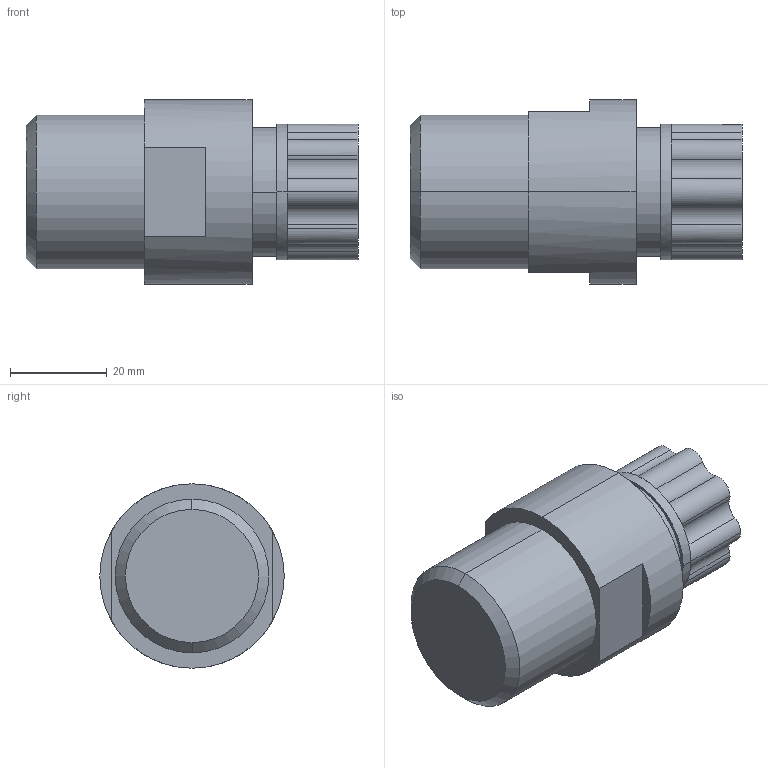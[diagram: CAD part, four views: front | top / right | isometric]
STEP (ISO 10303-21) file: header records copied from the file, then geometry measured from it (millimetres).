
FILE_DESCRIPTION (( 'STEP AP214' ), '1' );
FILE_NAME ('Fitting Synchro-Flare 08.STEP', '2012-09-26T19:23:43', ( '' ), ( '' ), 'SwSTEP 2.0', 'SolidWorks 2012', '' );
FILE_SCHEMA (( 'AUTOMOTIVE_DESIGN' ));
Length unit declared in the file: inch
Products named in the file (1): Fitting Synchro-Flare 08
Bounding box: 68.61 x 38.1 x 38.1 mm (x, y, z)
Volume: 54646.2 mm3; surface area: 9586.8 mm2
Topology: 1 solids, 1 shells, 51 faces, 122 edges, 77 vertices
Faces by surface type: cylinder 31, plane 18, cone 2
Entity records: 1592 total; most frequent: DIRECTION 307, CARTESIAN_POINT 251, ORIENTED_EDGE 244, AXIS2_PLACEMENT_3D 133, EDGE_CURVE 122, CIRCLE 81, VERTEX_POINT 77, EDGE_LOOP 55
